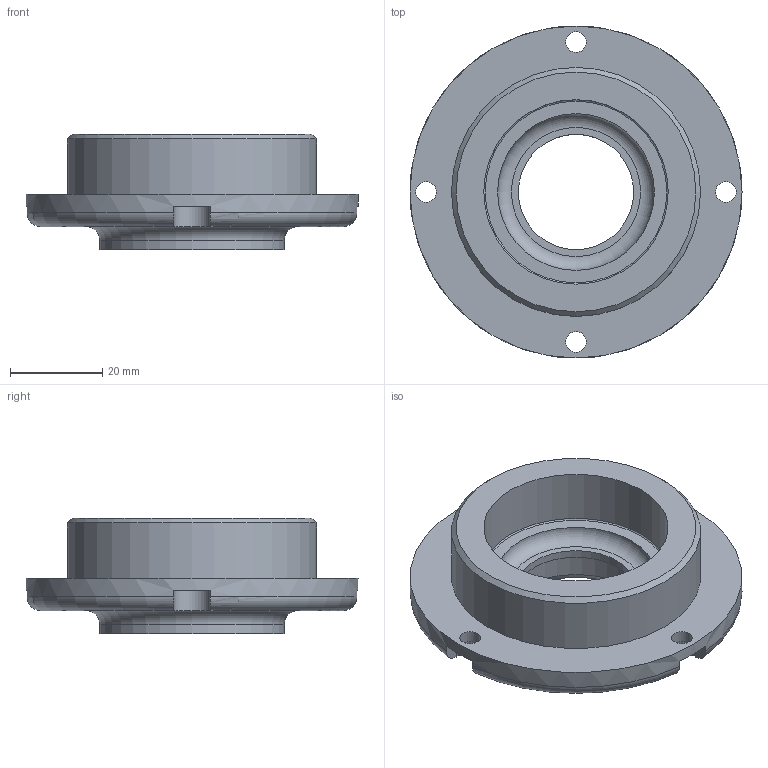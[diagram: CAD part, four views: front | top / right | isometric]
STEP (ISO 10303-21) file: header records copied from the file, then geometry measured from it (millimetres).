
FILE_DESCRIPTION(/* description */ (''),/* implementation_level */ '2;1');
FILE_NAME(/* name */ '',/* time_stamp */ '2024-07-17T10:50:00+09:00',/* author */ ('jhkim'),/* organization */ ('한국ATC센터'),/* preprocessor_version */ 'ST-DEVELOPER v20',/* originating_system */ 'Autodesk Inventor 2025',/* authorisation */ '');
FILE_SCHEMA (('AUTOMOTIVE_DESIGN { 1 0 10303 214 3 1 1 }'));
Length unit declared in the file: millimetre
Products named in the file (1): 커버
Bounding box: 72 x 72 x 25 mm (x, y, z)
Volume: 38113.9 mm3; surface area: 13841.6 mm2
Topology: 1 solids, 1 shells, 43 faces, 104 edges, 68 vertices
Faces by surface type: plane 19, cylinder 14, torus 8, cone 2
Full cylindrical faces by diameter (mm): 4.5 x4, 25 x1, 32 x1, 40 x2, 54 x1, 72 x1
Entity records: 1438 total; most frequent: CARTESIAN_POINT 288, DIRECTION 236, ORIENTED_EDGE 208, EDGE_CURVE 104, AXIS2_PLACEMENT_3D 96, VERTEX_POINT 68, EDGE_LOOP 58, CIRCLE 52
